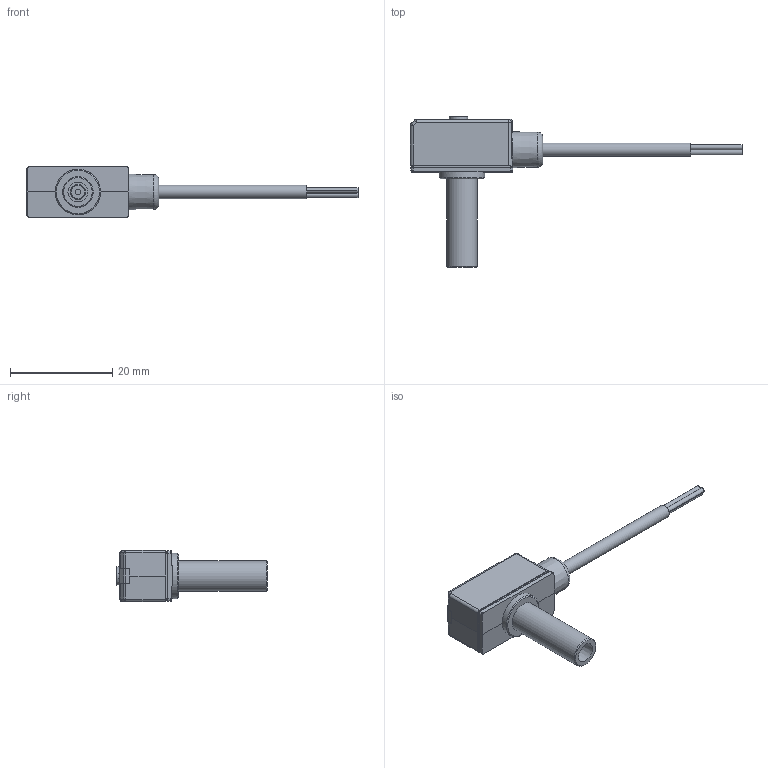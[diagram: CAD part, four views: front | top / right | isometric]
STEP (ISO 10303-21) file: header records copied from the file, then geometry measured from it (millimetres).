
FILE_DESCRIPTION(('STEP AP214'),'1');
FILE_NAME('82T6-N(P)G.stp','2026-04-16T04:55:55',(' '),(' '),'Spatial InterOp 3D',' ',' ');
FILE_SCHEMA(('AUTOMOTIVE_DESIGN { 1 0 10303 214 1 1 1 1 }'));
Length unit declared in the file: millimetre
Products named in the file (4): MPS-※82T6-N(P)G
Assembly tree (3 placements, depth 2):
  MPS-※82T6-N(P)G
    MPS-※82T6-N(P)G
    MPS-※82T6-N(P)G
    MPS-※82T6-N(P)G
Bounding box: 65 x 29.45 x 10 mm (x, y, z)
Volume: 2524.9 mm3; surface area: 2655.9 mm2
Topology: 2 solids, 8 shells, 291 faces, 751 edges, 490 vertices
Faces by surface type: plane 196, cylinder 63, cone 11, bspline 10, sphere 6, extrusion 4, torus 1
Full cylindrical faces by diameter (mm): 1 x1, 1.1 x1, 2.6 x1, 2.7 x2, 3 x1, 3.8 x1, 4.5 x1, 4.6 x1, 4.7 x1, 5.05 x1, 6 x1, 8.89 x1
Entity records: 11861 total; most frequent: CARTESIAN_POINT 2460, ORIENTED_EDGE 1425, DIRECTION 1411, EDGE_CURVE 723, VECTOR 523, LINE 519, VERTEX_POINT 483, AXIS2_PLACEMENT_3D 444
